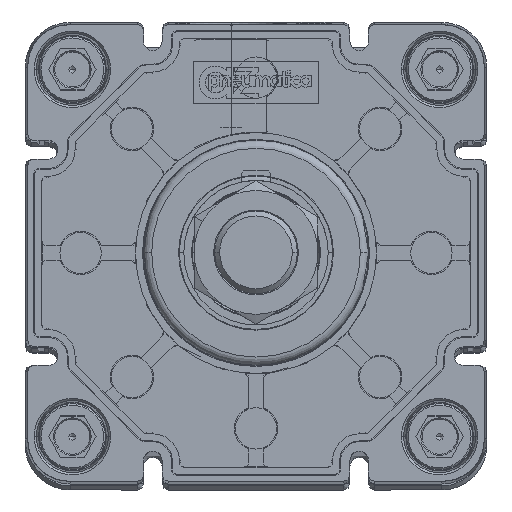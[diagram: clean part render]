
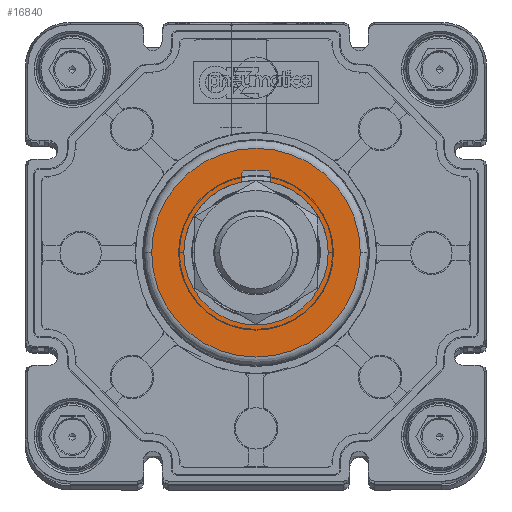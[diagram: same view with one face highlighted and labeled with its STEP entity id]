
A CAD part, top view. The second image highlights one B-rep face of the part: STEP entity #16840.
In plain terms, the highlighted planar face has unit normal (0, 0, 1) as drawn and (0, 0, -1) by its records, which use the part's own axes.
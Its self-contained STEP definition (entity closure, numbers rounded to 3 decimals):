
#1419 = DIRECTION ( 'NONE',  ( 1., 0., 0. ) ) ;
#1499 = CARTESIAN_POINT ( 'NONE',  ( 3.5, 19., -72. ) ) ;
#1525 = CIRCLE ( 'NONE', #4474, 25.282 ) ;
#2856 = DIRECTION ( 'NONE',  ( 0., 0., 1. ) ) ;
#2984 = CIRCLE ( 'NONE', #27011, 1. ) ;
#4474 = AXIS2_PLACEMENT_3D ( 'NONE', #10045, #51849, #5940 ) ;
#4841 = VECTOR ( 'NONE', #18653, 1000. ) ;
#5484 = CIRCLE ( 'NONE', #5854, 17.5 ) ;
#5495 = VECTOR ( 'NONE', #28603, 1000. ) ;
#5854 = AXIS2_PLACEMENT_3D ( 'NONE', #43749, #18187, #47664 ) ;
#5940 = DIRECTION ( 'NONE',  ( -1., 0., 0. ) ) ;
#6059 = CARTESIAN_POINT ( 'NONE',  ( 2.5, 20., -72. ) ) ;
#7929 = CARTESIAN_POINT ( 'NONE',  ( -3.5, 19., -72. ) ) ;
#8142 = VERTEX_POINT ( 'NONE', #29037 ) ;
#10045 = CARTESIAN_POINT ( 'NONE',  ( 0., 0., -72. ) ) ;
#10730 = VERTEX_POINT ( 'NONE', #30967 ) ;
#10869 = EDGE_CURVE ( 'NONE', #33611, #8142, #1525, .T. ) ;
#11841 = FACE_BOUND ( 'NONE', #21665, .T. ) ;
#12052 = CARTESIAN_POINT ( 'NONE',  ( -3.5, 17.146, -72. ) ) ;
#12706 = CARTESIAN_POINT ( 'NONE',  ( 0., 0., -72. ) ) ;
#13014 = DIRECTION ( 'NONE',  ( 0., 0., -1. ) ) ;
#13437 = DIRECTION ( 'NONE',  ( -1., 0., 0. ) ) ;
#13828 = CIRCLE ( 'NONE', #38437, 17.5 ) ;
#13877 = DIRECTION ( 'NONE',  ( -1., 0., 0. ) ) ;
#15173 = AXIS2_PLACEMENT_3D ( 'NONE', #52187, #18635, #1419 ) ;
#15505 = CIRCLE ( 'NONE', #15173, 17.5 ) ;
#16029 = PLANE ( 'NONE',  #39337 ) ;
#16106 = CIRCLE ( 'NONE', #33046, 25.282 ) ;
#16840 = ADVANCED_FACE ( 'NONE', ( #26329, #11841 ), #16029, .T. ) ;
#17539 = CARTESIAN_POINT ( 'NONE',  ( 17.5, 0., -72. ) ) ;
#17799 = ORIENTED_EDGE ( 'NONE', *, *, #46339, .T. ) ;
#18187 = DIRECTION ( 'NONE',  ( 0., 0., 1. ) ) ;
#18452 = CARTESIAN_POINT ( 'NONE',  ( 2.5, 19., -72. ) ) ;
#18626 = DIRECTION ( 'NONE',  ( 0., 0., -1. ) ) ;
#18635 = DIRECTION ( 'NONE',  ( 0., 0., 1. ) ) ;
#18653 = DIRECTION ( 'NONE',  ( 1., 0., 0. ) ) ;
#21665 = EDGE_LOOP ( 'NONE', ( #45652, #31675, #41334, #45756, #39134, #26242, #40861, #30213 ) ) ;
#23195 = CARTESIAN_POINT ( 'NONE',  ( -3.5, 19., -72. ) ) ;
#23756 = CARTESIAN_POINT ( 'NONE',  ( 0., 0., -72. ) ) ;
#23986 = LINE ( 'NONE', #24136, #5495 ) ;
#24136 = CARTESIAN_POINT ( 'NONE',  ( 3.5, 19., -72. ) ) ;
#24379 = EDGE_LOOP ( 'NONE', ( #50088, #17799 ) ) ;
#24941 = LINE ( 'NONE', #23195, #48826 ) ;
#25433 = DIRECTION ( 'NONE',  ( 0., 0., -1. ) ) ;
#25776 = VERTEX_POINT ( 'NONE', #1499 ) ;
#26242 = ORIENTED_EDGE ( 'NONE', *, *, #51808, .F. ) ;
#26329 = FACE_OUTER_BOUND ( 'NONE', #24379, .T. ) ;
#26803 = VERTEX_POINT ( 'NONE', #53996 ) ;
#27011 = AXIS2_PLACEMENT_3D ( 'NONE', #18452, #18626, #13877 ) ;
#27361 = VERTEX_POINT ( 'NONE', #50147 ) ;
#27394 = VERTEX_POINT ( 'NONE', #7929 ) ;
#28603 = DIRECTION ( 'NONE',  ( 0., -1., 0. ) ) ;
#29037 = CARTESIAN_POINT ( 'NONE',  ( 25.282, 0., -72. ) ) ;
#30154 = DIRECTION ( 'NONE',  ( 1., 0., 0. ) ) ;
#30213 = ORIENTED_EDGE ( 'NONE', *, *, #39707, .F. ) ;
#30967 = CARTESIAN_POINT ( 'NONE',  ( 2.5, 20., -72. ) ) ;
#31660 = DIRECTION ( 'NONE',  ( -1., 0., 0. ) ) ;
#31675 = ORIENTED_EDGE ( 'NONE', *, *, #53499, .T. ) ;
#32609 = DIRECTION ( 'NONE',  ( 1., 0., 0. ) ) ;
#33046 = AXIS2_PLACEMENT_3D ( 'NONE', #40057, #48580, #31660 ) ;
#33611 = VERTEX_POINT ( 'NONE', #35723 ) ;
#35723 = CARTESIAN_POINT ( 'NONE',  ( -25.282, 0., -72. ) ) ;
#35853 = EDGE_CURVE ( 'NONE', #39406, #54216, #15505, .T. ) ;
#36583 = VERTEX_POINT ( 'NONE', #12052 ) ;
#36742 = AXIS2_PLACEMENT_3D ( 'NONE', #42928, #13014, #30154 ) ;
#38437 = AXIS2_PLACEMENT_3D ( 'NONE', #23756, #2856, #32609 ) ;
#39134 = ORIENTED_EDGE ( 'NONE', *, *, #54541, .F. ) ;
#39337 = AXIS2_PLACEMENT_3D ( 'NONE', #12706, #25433, #13437 ) ;
#39406 = VERTEX_POINT ( 'NONE', #39662 ) ;
#39662 = CARTESIAN_POINT ( 'NONE',  ( -17.5, 0., -72. ) ) ;
#39707 = EDGE_CURVE ( 'NONE', #27394, #27361, #47422, .T. ) ;
#40057 = CARTESIAN_POINT ( 'NONE',  ( 0., 0., -72. ) ) ;
#40861 = ORIENTED_EDGE ( 'NONE', *, *, #50779, .F. ) ;
#41334 = ORIENTED_EDGE ( 'NONE', *, *, #35853, .T. ) ;
#41993 = EDGE_CURVE ( 'NONE', #54216, #26803, #5484, .T. ) ;
#42928 = CARTESIAN_POINT ( 'NONE',  ( -2.5, 19., -72. ) ) ;
#43749 = CARTESIAN_POINT ( 'NONE',  ( 0., 0., -72. ) ) ;
#44561 = LINE ( 'NONE', #6059, #4841 ) ;
#45652 = ORIENTED_EDGE ( 'NONE', *, *, #49783, .F. ) ;
#45756 = ORIENTED_EDGE ( 'NONE', *, *, #41993, .T. ) ;
#46339 = EDGE_CURVE ( 'NONE', #8142, #33611, #16106, .T. ) ;
#47422 = CIRCLE ( 'NONE', #36742, 1. ) ;
#47664 = DIRECTION ( 'NONE',  ( 1., 0., 0. ) ) ;
#48580 = DIRECTION ( 'NONE',  ( 0., 0., -1. ) ) ;
#48826 = VECTOR ( 'NONE', #52877, 1000. ) ;
#49783 = EDGE_CURVE ( 'NONE', #36583, #27394, #24941, .T. ) ;
#50088 = ORIENTED_EDGE ( 'NONE', *, *, #10869, .T. ) ;
#50147 = CARTESIAN_POINT ( 'NONE',  ( -2.5, 20., -72. ) ) ;
#50779 = EDGE_CURVE ( 'NONE', #27361, #10730, #44561, .T. ) ;
#51808 = EDGE_CURVE ( 'NONE', #10730, #25776, #2984, .T. ) ;
#51849 = DIRECTION ( 'NONE',  ( 0., 0., -1. ) ) ;
#52187 = CARTESIAN_POINT ( 'NONE',  ( 0., 0., -72. ) ) ;
#52877 = DIRECTION ( 'NONE',  ( 0., 1., 0. ) ) ;
#53499 = EDGE_CURVE ( 'NONE', #36583, #39406, #13828, .T. ) ;
#53996 = CARTESIAN_POINT ( 'NONE',  ( 3.5, 17.146, -72. ) ) ;
#54216 = VERTEX_POINT ( 'NONE', #17539 ) ;
#54541 = EDGE_CURVE ( 'NONE', #25776, #26803, #23986, .T. ) ;
